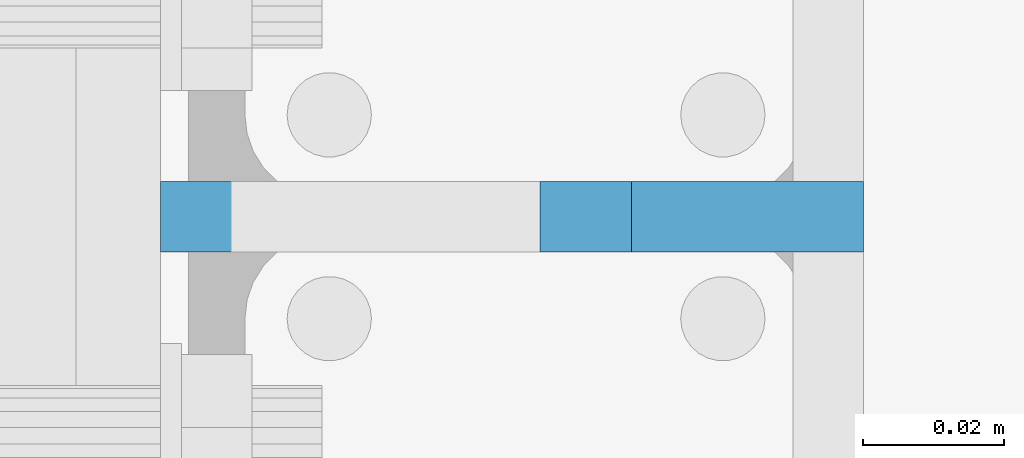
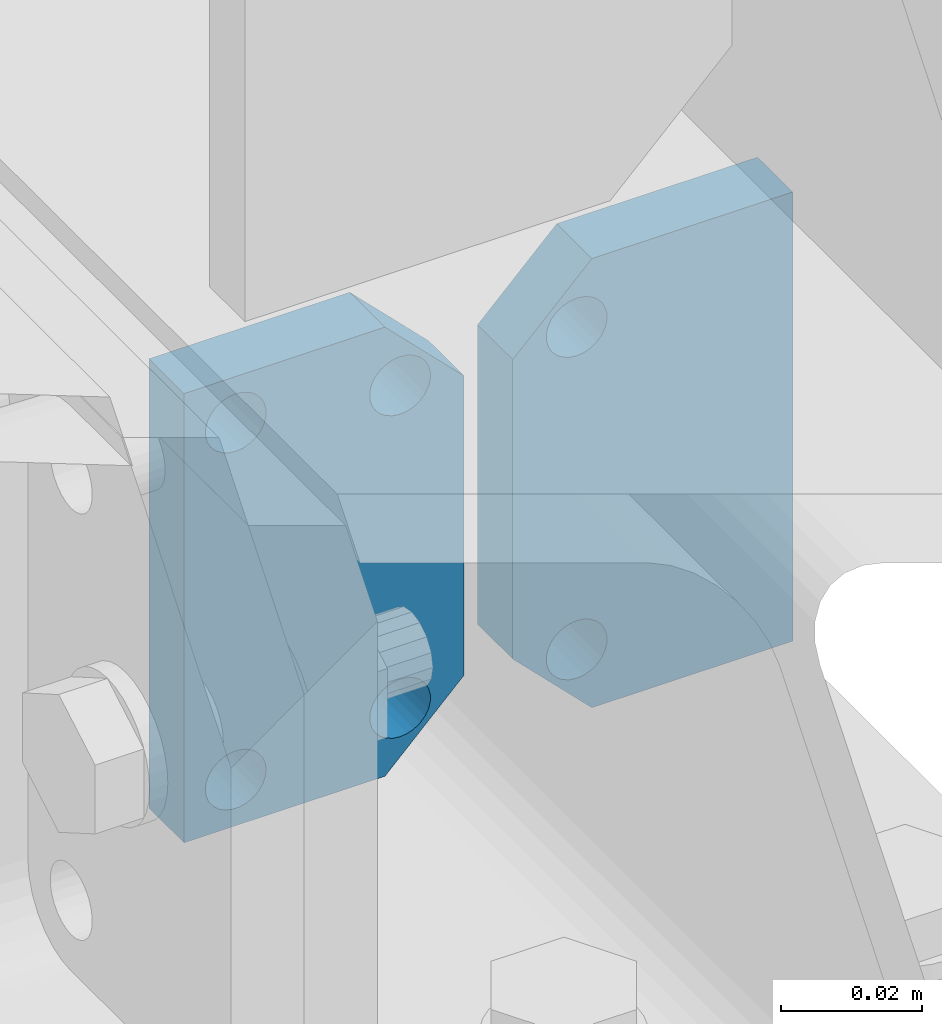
# One storey, part 74 of 476: 2 plates, 10 openings.
"""IFC2X3 building model written with IfcOpenShell, lengths in millimetres."""

from ifc_helpers import new_model, entity, si_unit, converted_unit, point, frame, frame_2d, origin, origin_with_axes, origin_2d_with_axis, place, context, project, spatial, polyline, circle_curve, line_curve, trimmed, segment, composite_curve, circle, outline, extrude, material, layer, layer_set, element, save


model = new_model("IFC2X3")

# Units and contexts
model_context = context("Model", 3, precision=1e-09, world=origin_with_axes())
ifc_project = project(units=[si_unit("LENGTHUNIT", "METRE", prefix="MILLI"), si_unit("AREAUNIT", "SQUARE_METRE"), si_unit("VOLUMEUNIT", "CUBIC_METRE"), converted_unit("PLANEANGLEUNIT", "DEGREE", entity("IfcPlaneAngleMeasure", 0.01745329), si_unit("PLANEANGLEUNIT", "RADIAN"), dimensions=[0, 0, 0, 0, 0, 0, 0])], contexts=[model_context])

# Site, building, storey
site_placement = place(None, origin_with_axes())
site = spatial("IfcSite", under=ifc_project, at=site_placement, Name="mKR Teilneubau & Sanierung BA1 - Ostfildern", CompositionType="ELEMENT")
building_placement = place(site_placement, origin_with_axes())
building = spatial("IfcBuilding", under=site, at=building_placement, Name="Struktur 1", CompositionType="ELEMENT")
storey_placement = place(building_placement, origin_with_axes())
storey = spatial("IfcBuildingStorey", under=building, at=storey_placement, Name="Default Storey", CompositionType="ELEMENT", Elevation=0.0)

# Plate, openings
ifc_material = material(Name="S235JR")
ifc_layer = layer(ifc_material, 10.0)
ifc_layer_set = layer_set([ifc_layer], Name="S235JR")
plate_1_placement = place(None, frame((23687.608764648, -9770.67387897, 3057.0), z_axis=(0.0, 1.0, 0.0), x_axis=(1.0, 0.0, 0.0)))
plate_1 = element("IfcPlate", 1, at=plate_1_placement, inside=storey, material=ifc_layer_set, Name="Stiffener#2", ObjectType="Stiffener#2", context=model_context, shape_type="SweptSolid", body=[
    extrude(outline(polyline([(0.0, 0.0), (46.0, 0.0), (46.0, 78.0), (0.0, 78.0), (0.0, 0.0)])), origin_with_axes(), (0.0, 0.0, 1.0), 10.0),
])
opening_1_placement = place(plate_1_placement, frame((0.0, 0.0, -0.01), z_axis=(0.0, 0.0, 1.0), x_axis=(1.0, 0.0, 0.0)))
element("IfcOpeningElement", 2, at=opening_1_placement, cuts=plate_1, ObjectType="Opening", context=model_context, shape_type="SweptSolid", body=[
    extrude(outline(composite_curve([segment(trimmed(line_curve((0.0, 0.0), (1.0, 0.0), 13.0), [point((0.0, 0.0))], [point((13.0, 0.0))], True, "CARTESIAN"), True, "CONTINUOUS"), segment(trimmed(circle_curve(frame_2d((13.0, 13.0), x_axis=(-1.0, 0.0)), 13.0), [point((13.0, 0.0))], [point((0.0, 13.0))], False, "CARTESIAN"), True, "CONTINUOUS"), segment(trimmed(line_curve((0.0, 13.0), (0.0, -1.0), 13.0), [point((0.0, 13.0))], [point((0.0, 0.0))], True, "CARTESIAN"), True, "CONTINUOUS")], self_intersect=False)), origin(), (0.0, 0.0, 1.0), 10.02),
])
opening_2_placement = place(plate_1_placement, frame((0.0, 0.0, -0.01), z_axis=(0.0, 0.0, 1.0), x_axis=(1.0, 0.0, 0.0)))
element("IfcOpeningElement", 3, at=opening_2_placement, cuts=plate_1, ObjectType="Opening", context=model_context, shape_type="SweptSolid", body=[
    extrude(outline(composite_curve([segment(trimmed(line_curve((0.0, 78.0), (0.0, -1.0), 13.0), [point((0.0, 78.0))], [point((0.0, 65.0))], True, "CARTESIAN"), True, "CONTINUOUS"), segment(trimmed(circle_curve(frame_2d((13.0, 65.0), x_axis=(-1.0, 0.0)), 13.0), [point((0.0, 65.0))], [point((13.0, 78.0))], False, "CARTESIAN"), True, "CONTINUOUS"), segment(trimmed(line_curve((13.0, 78.0), (-1.0, 0.0), 13.0), [point((13.0, 78.0))], [point((0.0, 78.0))], True, "CARTESIAN"), True, "CONTINUOUS")], self_intersect=False)), origin(), (0.0, 0.0, 1.0), 10.02),
])
opening_3_placement = place(plate_1_placement, frame((10.5, 67.0, -0.5), z_axis=(0.0, 0.0, 1.0), x_axis=(0.0, 1.0, 0.0)))
element("IfcOpeningElement", 4, at=opening_3_placement, cuts=plate_1, ObjectType="Opening", context=model_context, shape_type="SweptSolid", body=[
    extrude(circle(Radius=5.001, at=origin_2d_with_axis()), origin(), (0.0, 0.0, 1.0), 11.0),
])
opening_4_placement = place(plate_1_placement, frame((10.5, 11.0, -0.5), z_axis=(0.0, 0.0, 1.0), x_axis=(0.0, 1.0, 0.0)))
element("IfcOpeningElement", 5, at=opening_4_placement, cuts=plate_1, ObjectType="Opening", context=model_context, shape_type="SweptSolid", body=[
    extrude(circle(Radius=5.001, at=origin_2d_with_axis()), origin(), (0.0, 0.0, 1.0), 11.0),
])

plate_2_placement = place(None, frame((23679.608764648, -9760.67387897, 3057.0), z_axis=(0.0, -1.0, 0.0), x_axis=(-1.0, 0.0, 0.0)))
plate_2 = element("IfcPlate", 6, at=plate_2_placement, inside=storey, material=ifc_layer_set, Name="Stiffener#1", ObjectType="Stiffener#1", context=model_context, shape_type="SweptSolid", body=[
    extrude(outline(polyline([(0.0, 0.0), (46.0, 0.0), (46.0, 78.0), (0.0, 78.0), (0.0, 0.0)])), origin_with_axes(), (0.0, 0.0, 1.0), 10.0),
])
opening_5_placement = place(plate_2_placement, frame((0.0, 0.0, -0.01), z_axis=(0.0, 0.0, 1.0), x_axis=(1.0, 0.0, 0.0)))
element("IfcOpeningElement", 7, at=opening_5_placement, cuts=plate_2, ObjectType="Opening", context=model_context, shape_type="SweptSolid", body=[
    extrude(outline(composite_curve([segment(trimmed(line_curve((0.0, 0.0), (1.0, 0.0), 13.0), [point((0.0, 0.0))], [point((13.0, 0.0))], True, "CARTESIAN"), True, "CONTINUOUS"), segment(trimmed(circle_curve(frame_2d((13.0, 13.0), x_axis=(-1.0, 0.0)), 13.0), [point((13.0, 0.0))], [point((0.0, 13.0))], False, "CARTESIAN"), True, "CONTINUOUS"), segment(trimmed(line_curve((0.0, 13.0), (0.0, -1.0), 13.0), [point((0.0, 13.0))], [point((0.0, 0.0))], True, "CARTESIAN"), True, "CONTINUOUS")], self_intersect=False)), origin(), (0.0, 0.0, 1.0), 10.02),
])
opening_6_placement = place(plate_2_placement, frame((0.0, 0.0, -0.01), z_axis=(0.0, 0.0, 1.0), x_axis=(1.0, 0.0, 0.0)))
element("IfcOpeningElement", 8, at=opening_6_placement, cuts=plate_2, ObjectType="Opening", context=model_context, shape_type="SweptSolid", body=[
    extrude(outline(composite_curve([segment(trimmed(line_curve((0.0, 78.0), (0.0, -1.0), 13.0), [point((0.0, 78.0))], [point((0.0, 65.0))], True, "CARTESIAN"), True, "CONTINUOUS"), segment(trimmed(circle_curve(frame_2d((13.0, 65.0), x_axis=(-1.0, 0.0)), 13.0), [point((0.0, 65.0))], [point((13.0, 78.0))], False, "CARTESIAN"), True, "CONTINUOUS"), segment(trimmed(line_curve((13.0, 78.0), (-1.0, 0.0), 13.0), [point((13.0, 78.0))], [point((0.0, 78.0))], True, "CARTESIAN"), True, "CONTINUOUS")], self_intersect=False)), origin(), (0.0, 0.0, 1.0), 10.02),
])
opening_7_placement = place(plate_2_placement, frame((10.5, 11.0, 10.5), z_axis=(0.0, 0.0, -1.0), x_axis=(0.0, 1.0, 0.0)))
element("IfcOpeningElement", 9, at=opening_7_placement, cuts=plate_2, ObjectType="Opening", context=model_context, shape_type="SweptSolid", body=[
    extrude(circle(Radius=5.001, at=origin_2d_with_axis()), origin(), (0.0, 0.0, 1.0), 11.0),
])
opening_8_placement = place(plate_2_placement, frame((40.5, 11.0, 10.5), z_axis=(0.0, 0.0, -1.0), x_axis=(0.0, 1.0, 0.0)))
element("IfcOpeningElement", 10, at=opening_8_placement, cuts=plate_2, ObjectType="Opening", context=model_context, shape_type="SweptSolid", body=[
    extrude(circle(Radius=5.001, at=frame_2d((-3.0, -3.0), x_axis=(1.0, 0.0))), origin(), (0.0, 0.0, 1.0), 11.0),
])
opening_9_placement = place(plate_2_placement, frame((37.5, 75.001, 10.5), z_axis=(0.0, 0.0, 1.0), x_axis=(1.0, 0.0, 0.0)))
element("IfcOpeningElement", 11, at=opening_9_placement, cuts=plate_2, ObjectType="Opening", context=model_context, shape_type="SweptSolid", body=[
    extrude(circle(Radius=5.001, at=frame_2d((0.0, -5.001), x_axis=(1.0, 0.0))), origin(), (0.0, 0.0, -1.0), 11.0),
])
opening_10_placement = place(plate_2_placement, frame((10.5, 67.0, 10.5), z_axis=(0.0, 0.0, -1.0), x_axis=(0.0, 1.0, 0.0)))
element("IfcOpeningElement", 12, at=opening_10_placement, cuts=plate_2, ObjectType="Opening", context=model_context, shape_type="SweptSolid", body=[
    extrude(circle(Radius=5.001, at=origin_2d_with_axis()), origin(), (0.0, 0.0, 1.0), 11.0),
])

save(model, "model.ifc")
